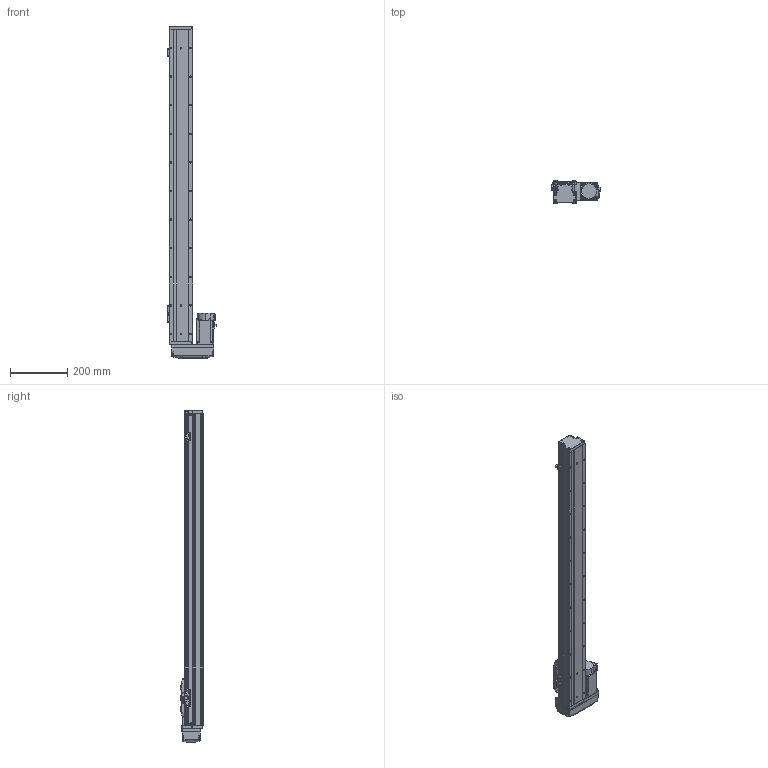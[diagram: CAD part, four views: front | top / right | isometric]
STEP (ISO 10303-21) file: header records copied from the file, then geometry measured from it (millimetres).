
FILE_DESCRIPTION (( 'STEP AP203' ), '1' );
FILE_NAME ('GTH8-900-BR-M20-C4.step', '2022-09-23T01:11:54', ( '微软用户' ), ( '微软中国' ), 'SwSTEP 2.0', 'SolidWorks 2020', '' );
FILE_SCHEMA (( 'CONFIG_CONTROL_DESIGN' ));
Length unit declared in the file: millimetre
Products named in the file (18): GBT 70.1-M4×16; CTHA86-015-1_CTHA86-015-2; GTH80-004; GTH80-028; CTHA86-033_M40B; GTH80-006; GTH50-024; GTH8-900-BR-M20-C4; GTH80-013; GTH50-023; GBT 70.3-M3℅6; GBT96.1-2002 3×0.8; GTH80-022; BTH-M3X5X6; GTH80-001_900; GBT 70.1-M3℅6; hg-kn43j_-s100_; GTH80-003
Assembly tree (57 placements, depth 2):
  GTH8-900-BR-M20-C4
    GTH80-001_900
    GTH80-003
    GTH80-004
    GTH80-006
    GTH80-013
    GBT 70.3-M3℅6  x4
    GTH80-022
    GBT 70.1-M3℅6  x14
    GBT 70.1-M4×16  x8
    GTH80-028  x2
    GTH50-024  x3
    GTH50-023  x3
    GBT96.1-2002 3×0.8  x6
    BTH-M3X5X6  x8
    hg-kn43j_-s100_
    CTHA86-015-1_CTHA86-015-2
    CTHA86-033_M40B
Bounding box: 169.7 x 78 x 1161 mm (x, y, z)
Volume: 5707901.3 mm3; surface area: 563650.6 mm2
Topology: 59 solids, 59 shells, 2252 faces, 5211 edges, 3195 vertices
Faces by surface type: plane 1187, cylinder 623, cone 260, torus 166, bspline 8, sphere 8
Entity records: 41366 total; most frequent: CARTESIAN_POINT 7265, DIRECTION 6733, ORIENTED_EDGE 6240, EDGE_CURVE 3120, AXIS2_PLACEMENT_3D 2361, LINE 2011, VECTOR 2011, VERTEX_POINT 1970
